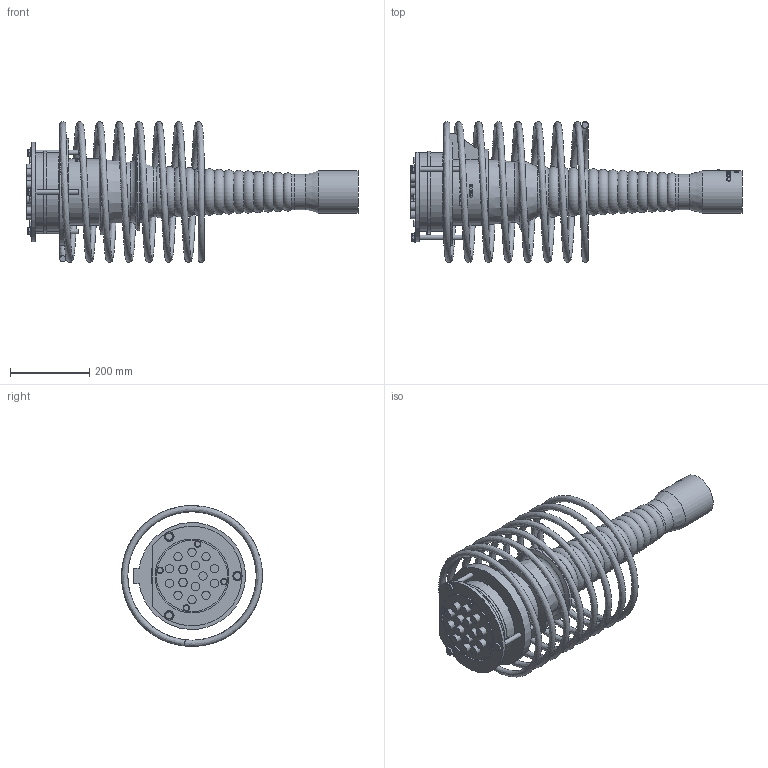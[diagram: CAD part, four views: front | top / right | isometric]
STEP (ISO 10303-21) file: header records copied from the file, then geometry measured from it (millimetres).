
FILE_DESCRIPTION(/* description */ (''),/* implementation_level */ '2;1');
FILE_NAME(/* name */ 'C:\Users\klukas\VAULT\CAD-Daten\Konstruktion\02a. Zusammenbau\Z-13.1-114 Typ i-Litzenspannverf. m. Verbund\Fe - L15 flex.AK\Z-13.1-114.Fe.015.20 (Fe) L15i flex Abdeckkappe.stp',/* time_stamp */ '2023-08-23T11:30:57+02:00',/* author */ ('klukas'),/* organization */ (''),/* preprocessor_version */ 'ST-DEVELOPER v18.1',/* originating_system */ 'Autodesk Inventor 2021',/* authorisation */ '');
FILE_SCHEMA (('AUTOMOTIVE_DESIGN { 1 0 10303 214 3 1 1 }'));
Length unit declared in the file: millimetre
Products named in the file (1): Z-13.1-114.Fe.015.20 (Fe) L15i flex Abdeckkappe-stp+rfa
Bounding box: 839.45 x 355.98 x 355.95 mm (x, y, z)
Volume: 15387269.2 mm3; surface area: 1372918.5 mm2
Topology: 23 solids, 23 shells, 624 faces, 1476 edges, 962 vertices
Faces by surface type: plane 319, bspline 146, cylinder 88, cone 55, torus 16
Full cylindrical faces by diameter (mm): 5 x1, 8 x4, 11.63 x4, 12 x3, 16 x4, 16.63 x3, 21 x15, 24 x3, 89 x1, 107 x1, 137 x2, 155 x1, 180 x1, 187 x1, 193 x1, 194 x1, 196 x1, 199 x1, 204 x1, 216 x1
Entity records: 35631 total; most frequent: CARTESIAN_POINT 21448, ORIENTED_EDGE 2952, DIRECTION 2435, EDGE_CURVE 1476, VERTEX_POINT 962, AXIS2_PLACEMENT_3D 912, EDGE_LOOP 692, STYLED_ITEM 647
